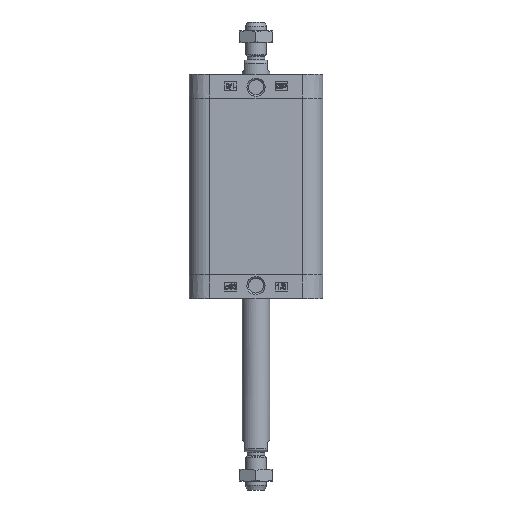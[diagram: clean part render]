
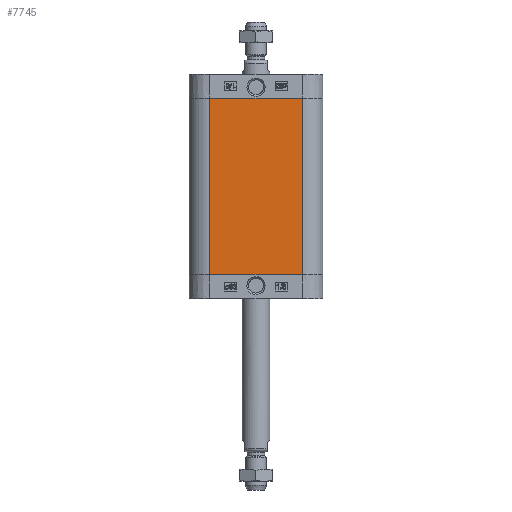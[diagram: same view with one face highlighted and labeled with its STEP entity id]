
A CAD part, left-side view. The second image highlights one B-rep face of the part: STEP entity #7745.
In plain terms, the highlighted planar face has unit normal (-1, 0, 0).
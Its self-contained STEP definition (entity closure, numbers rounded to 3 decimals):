
#497=LINE('',#13412,#1160);
#551=LINE('',#13636,#1214);
#605=LINE('',#13861,#1268);
#606=LINE('',#13862,#1269);
#1160=VECTOR('',#11266,1000.);
#1214=VECTOR('',#11438,1000.);
#1268=VECTOR('',#11610,1000.);
#1269=VECTOR('',#11611,1000.);
#2049=ORIENTED_EDGE('',*,*,#4139,.T.);
#2050=ORIENTED_EDGE('',*,*,#4363,.F.);
#2051=ORIENTED_EDGE('',*,*,#4251,.T.);
#2052=ORIENTED_EDGE('',*,*,#4364,.T.);
#4139=EDGE_CURVE('',#5297,#5295,#497,.T.);
#4251=EDGE_CURVE('',#5408,#5409,#551,.T.);
#4363=EDGE_CURVE('',#5408,#5295,#605,.T.);
#4364=EDGE_CURVE('',#5409,#5297,#606,.T.);
#5295=VERTEX_POINT('',#13410);
#5297=VERTEX_POINT('',#13413);
#5408=VERTEX_POINT('',#13637);
#5409=VERTEX_POINT('',#13638);
#6394=EDGE_LOOP('',(#2049,#2050,#2051,#2052));
#6964=FACE_BOUND('',#6394,.T.);
#7532=PLANE('',#10637);
#7745=ADVANCED_FACE('',(#6964),#7532,.T.);
#10637=AXIS2_PLACEMENT_3D('',#13860,#11608,#11609);
#11266=DIRECTION('',(0.,1.,0.));
#11438=DIRECTION('',(0.,-1.,0.));
#11608=DIRECTION('',(-1.,0.,0.));
#11609=DIRECTION('',(0.,0.,1.));
#11610=DIRECTION('',(0.,0.,1.));
#11611=DIRECTION('',(0.,0.,1.));
#13410=CARTESIAN_POINT('',(-38.5,26.5,101.5));
#13412=CARTESIAN_POINT('',(-38.5,26.5,101.5));
#13413=CARTESIAN_POINT('',(-38.5,-26.5,101.5));
#13636=CARTESIAN_POINT('',(-38.5,26.5,0.));
#13637=CARTESIAN_POINT('',(-38.5,26.5,0.));
#13638=CARTESIAN_POINT('',(-38.5,-26.5,0.));
#13860=CARTESIAN_POINT('',(-38.5,-26.5,0.));
#13861=CARTESIAN_POINT('',(-38.5,26.5,0.));
#13862=CARTESIAN_POINT('',(-38.5,-26.5,0.));
